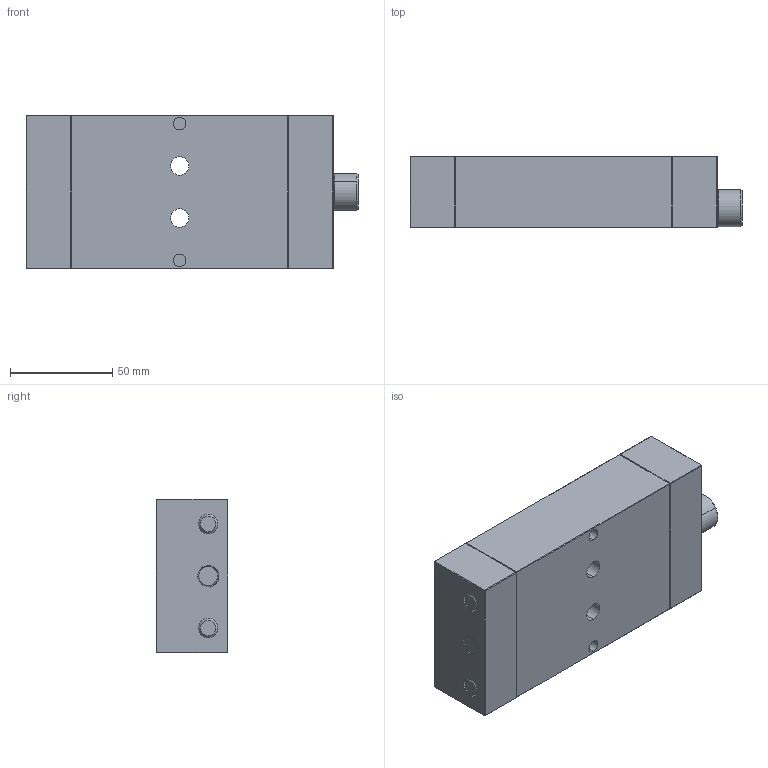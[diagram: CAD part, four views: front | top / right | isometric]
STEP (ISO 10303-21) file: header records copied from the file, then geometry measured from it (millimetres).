
FILE_DESCRIPTION (( 'STEP AP214' ), '1' );
FILE_NAME ('PMV3XS REV C.STEP', '2021-11-18T20:44:42', ( '' ), ( '' ), 'SwSTEP 2.0', 'SolidWorks 2021', '' );
FILE_SCHEMA (( 'AUTOMOTIVE_DESIGN' ));
Length unit declared in the file: millimetre
Products named in the file (7): 0375X1250.DP_98381A356; LC045H10 M_For 4 in; M12X150.SHCS_91290A646; PMV3XS REV C; PMV3XS-1; PMV3XS-2_PRE-ASSEMBLY; PMV3XS-3_PRE-ASSEMBLY
Assembly tree (10 placements, depth 2):
  PMV3XS REV C
    PMV3XS-1
    PMV3XS-2_PRE-ASSEMBLY
    PMV3XS-3_PRE-ASSEMBLY
    LC045H10 M_For 4 in  x2
    0375X1250.DP_98381A356  x4
    M12X150.SHCS_91290A646
Bounding box: 162 x 35 x 75 mm (x, y, z)
Volume: 383356.4 mm3; surface area: 78012.2 mm2
Topology: 10 solids, 10 shells, 325 faces, 729 edges, 440 vertices
Faces by surface type: cylinder 140, plane 115, cone 60, bspline 10
Entity records: 20235 total; most frequent: CARTESIAN_POINT 13687, ORIENTED_EDGE 1354, DIRECTION 1246, EDGE_CURVE 677, AXIS2_PLACEMENT_3D 458, VERTEX_POINT 410, LINE 330, VECTOR 330
